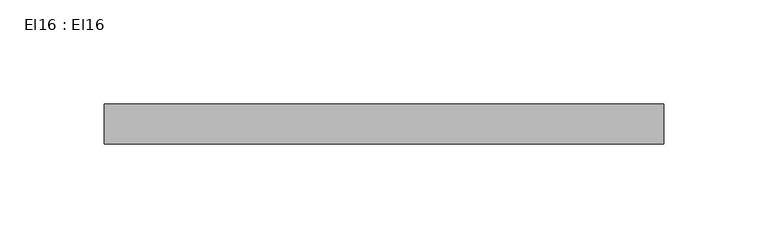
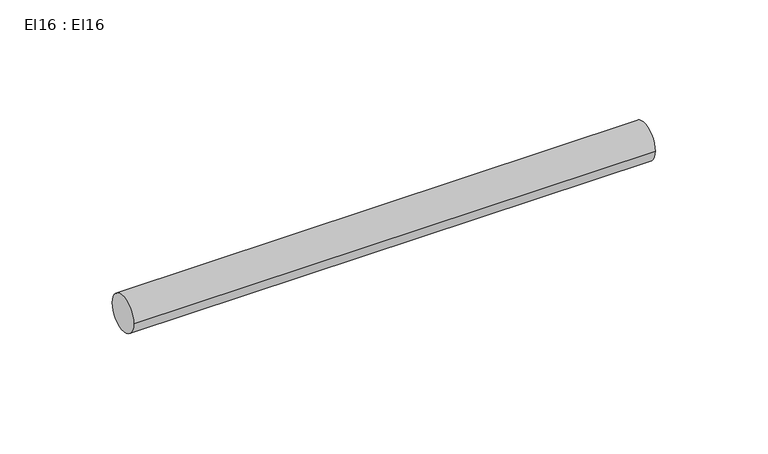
"""IFC4 building model written with IfcOpenShell, lengths in millimetres: cable carrier segment geometry, El16 : El16."""

from ifc_helpers import new_model, si_unit, point, frame, frame_2d, origin, place, context, project, spatial, circle_curve, trimmed, segment, composite_curve, outline, extrude, source, transform, mapped, element, save


def el16_el16_556e4214(model_context):
    return source(origin(), model_context, "Body", "SweptSolid", [
        extrude(outline(composite_curve([segment(trimmed(circle_curve(frame_2d((13172.1, 1200.0)), 9.5), [point((13162.6, 1200.0))], [point((13181.6, 1200.0))], False, "CARTESIAN"), True, "CONTINUOUS"), segment(trimmed(circle_curve(frame_2d((13172.1, 1200.0)), 9.5), [point((13181.6, 1200.0))], [point((13162.6, 1200.0))], False, "CARTESIAN"), True, "CONTINUOUS")], self_intersect=False)), frame((5183.542, 0.0, 0.0), z_axis=(1.0, 0.0, 0.0), x_axis=(0.0, 1.0, 0.0)), (0.0, 0.0, 1.0), 267.936),
    ])


if __name__ == "__main__":
    model = new_model("IFC4")
    model_context = context("Model", 3, world=origin())
    ifc_project = project(units=[si_unit("LENGTHUNIT", "METRE", prefix="MILLI")], contexts=[model_context])
    site = spatial("IfcSite", under=ifc_project)
    building = spatial("IfcBuilding", under=site)
    placement = place(None, origin())
    el16_el16_shape = el16_el16_556e4214(model_context)
    element("IfcCableCarrierSegment", 1, ObjectType="El16 : El16", at=placement, inside=building, context=model_context, shape_type="MappedRepresentation", body=[
        mapped(el16_el16_shape, transform((0.0, 0.0, 0.0), x_axis=(1.0, 0.0, 0.0), y_axis=(0.0, 1.0, 0.0), z_axis=(0.0, 0.0, 1.0))),
    ])
    save(model, "model.ifc")
